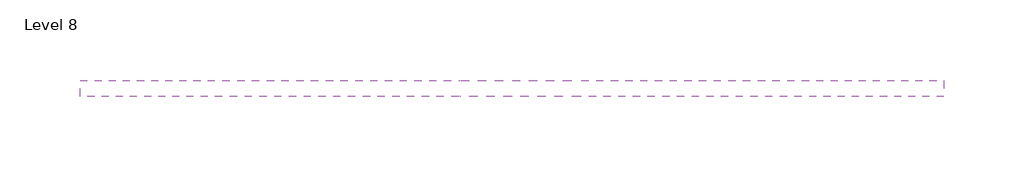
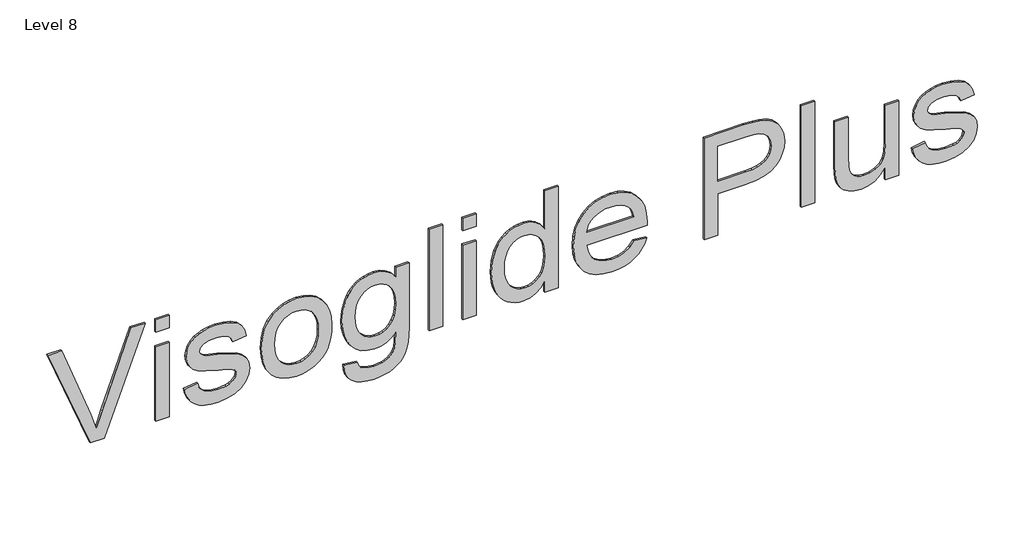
# One storey: 1 proxy.
"""IFC4 building model written with IfcOpenShell, lengths in millimetres."""

import ifcopenshell
import ifcopenshell.guid

model = None  # the IFC model being written
_history = None  # IfcOwnerHistory: only IFC2X3 demands one
_inside = {}  # id of a spatial element -> (the spatial element, [elements in it])
_under = {}  # id of a project, library or spatial element -> (it, [spatial elements below it])
_declared = {}  # id of a project -> (the project, [libraries it declares])
_typed = {}  # id of a type object -> (the type object, [elements of that type])
_made_of = {}  # id of a material, layer set ... -> (it, [elements and type objects made of it])


def new_model(schema):
    """Start an empty IFC model of exactly this schema.

    Asked for "IFC4X3", IfcOpenShell would pick the latest addendum, in which some entities
    have other attributes; the version numbers below select the first issue.
    IFC2X3 requires an IfcOwnerHistory on every rooted entity: one is made here for all.
    """
    global model, _history
    if schema == "IFC4X3":
        model = ifcopenshell.file(schema_version=(4, 3, 0, 0))
    else:
        model = ifcopenshell.file(schema=schema)
    _inside.clear()
    _under.clear()
    _declared.clear()
    _typed.clear()
    _made_of.clear()
    _history = None
    if model.schema == "IFC2X3":
        org = make("IfcOrganization", Name="unknown")
        user = make(
            "IfcPersonAndOrganization",
            ThePerson=make("IfcPerson", FamilyName="unknown"),
            TheOrganization=org,
        )
        app = make(
            "IfcApplication",
            ApplicationDeveloper=org,
            Version="unknown",
            ApplicationFullName="unknown",
            ApplicationIdentifier="unknown",
        )
        _history = make(
            "IfcOwnerHistory",
            OwningUser=user,
            OwningApplication=app,
            ChangeAction="ADDED",
            CreationDate=0,
        )
    return model


def make(cls, **values):
    """One entity of the class cls with the attributes given. An attribute that is None is left unset."""
    return model.create_entity(
        cls, **{name: value for name, value in values.items() if value is not None}
    )


def rooted(cls, **values):
    """An entity with a GlobalId (a new one), such as an element, a storey or a relation."""
    return make(cls, GlobalId=ifcopenshell.guid.new(), OwnerHistory=_history, **values)


def si_unit(unit_type, name, prefix=None):
    """IfcSIUnit, for example si_unit("LENGTHUNIT", "METRE", prefix="MILLI")."""
    return make("IfcSIUnit", UnitType=unit_type, Prefix=prefix, Name=name)


def assignment(units):
    """IfcUnitAssignment: the units of a project."""
    return None if units is None else make("IfcUnitAssignment", Units=units)


def point(xyz):
    """IfcCartesianPoint."""
    return None if xyz is None else make("IfcCartesianPoint", Coordinates=xyz)


def direction(xyz):
    """IfcDirection."""
    return None if xyz is None else make("IfcDirection", DirectionRatios=xyz)


def frame(location, z_axis=None, x_axis=None):
    """IfcAxis2Placement3D, a coordinate frame: its origin and axes. An axis left out is left unset."""
    return make(
        "IfcAxis2Placement3D",
        Location=point(location),
        Axis=direction(z_axis),
        RefDirection=direction(x_axis),
    )


def origin():
    """The frame at (0, 0, 0) with its axes left unset."""
    return frame((0.0, 0.0, 0.0))


def place(relative_to, where):
    """IfcLocalPlacement: puts the frame where relative to a parent placement (None: the world)."""
    return make(
        "IfcLocalPlacement", PlacementRelTo=relative_to, RelativePlacement=where
    )


def context(
    kind, dimensions, precision=None, world=None, true_north=None, identifier=None
):
    """IfcGeometricRepresentationContext, for example the 3D "Model" context."""
    return make(
        "IfcGeometricRepresentationContext",
        ContextIdentifier=identifier,
        ContextType=kind,
        CoordinateSpaceDimension=dimensions,
        Precision=precision,
        WorldCoordinateSystem=world,
        TrueNorth=true_north,
    )


def project(units=None, contexts=None):
    """IfcProject with its units and contexts."""
    return rooted(
        "IfcProject",
        Name="project",
        RepresentationContexts=contexts,
        UnitsInContext=assignment(units),
    )


def spatial(cls, under=None, at=None, **own):
    """A site, building, storey or space (cls), placed at a placement, below another one or the project."""
    s = rooted(cls, ObjectPlacement=at, **own)
    if under is not None:
        _under.setdefault(under.id(), (under, []))[1].append(s)
    return s


def polyline(points):
    """IfcPolyline through the points."""
    return make("IfcPolyline", Points=[point(p) for p in points])


def outline(outer, holes=None, kind="AREA"):
    """IfcArbitraryClosedProfileDef: a profile drawn as a closed curve; with holes, ...WithVoids."""
    if holes is None:
        return make("IfcArbitraryClosedProfileDef", ProfileType=kind, OuterCurve=outer)
    return make(
        "IfcArbitraryProfileDefWithVoids",
        ProfileType=kind,
        OuterCurve=outer,
        InnerCurves=holes,
    )


def extrude(swept, where, along, depth):
    """IfcExtrudedAreaSolid: the profile swept, set in the frame where, extruded along a direction by depth."""
    return make(
        "IfcExtrudedAreaSolid",
        SweptArea=swept,
        Position=where,
        ExtrudedDirection=direction(along),
        Depth=depth,
    )


def shape(context_of_items, identifier, shape_type, items):
    """IfcShapeRepresentation: the items that make up one representation, for example the "Body"."""
    return make(
        "IfcShapeRepresentation",
        ContextOfItems=context_of_items,
        RepresentationIdentifier=identifier,
        RepresentationType=shape_type,
        Items=items,
    )


def made_of(thing, what):
    """Note that an element or type object is made of a material, layer set ...; save() writes the relation."""
    if what is not None:
        _made_of.setdefault(what.id(), (what, []))[1].append(thing)
    return thing


def element(
    cls,
    number,
    at=None,
    inside=None,
    cuts=None,
    type_object=None,
    material=None,
    context=None,
    identifier="Body",
    shape_type=None,
    held_by="IfcProductDefinitionShape",
    body=None,
    shapes=None,
    **own,
):
    """One element of the class cls, such as IfcWall. Its Tag is "e" and its number.

    at: its placement. inside: the storey or other place that contains it. cuts: it is an
    opening in that element (IfcRelVoidsElement). A single representation is given by context,
    identifier, shape_type and body (its items); several are given by shapes. held_by: the class
    of the entity that holds the representations. save() writes the other relations.
    """
    e = rooted(cls, Tag="e%d" % number, ObjectPlacement=at, **own)
    if body is not None:
        shapes = [shape(context, identifier, shape_type, body)]
    if shapes is not None:
        e.Representation = make(held_by, Representations=shapes)
    if inside is not None:
        _inside.setdefault(inside.id(), (inside, []))[1].append(e)
    if cuts is not None:
        rooted(
            "IfcRelVoidsElement", RelatingBuildingElement=cuts, RelatedOpeningElement=e
        )
    if type_object is not None:
        _typed.setdefault(type_object.id(), (type_object, []))[1].append(e)
    return made_of(e, material)


def aggregate(whole, parts):
    """IfcRelAggregates: a whole, such as a stair, and the parts it consists of."""
    return rooted("IfcRelAggregates", RelatingObject=whole, RelatedObjects=parts)


def save(model, path):
    """Write the relations noted so far, then the file.

    IfcRelAggregates (storeys below a building ...), IfcRelContainedInSpatialStructure (elements
    in a storey), IfcRelDefinesByType, IfcRelAssociatesMaterial and IfcRelDeclares: one each for
    every whole, place, type object, material and project.
    """
    for whole, parts in _under.values():
        aggregate(whole, parts)
    for where, things in _inside.values():
        rooted(
            "IfcRelContainedInSpatialStructure",
            RelatedElements=things,
            RelatingStructure=where,
        )
    for kind, things in _typed.values():
        rooted("IfcRelDefinesByType", RelatedObjects=things, RelatingType=kind)
    for what, things in _made_of.values():
        rooted("IfcRelAssociatesMaterial", RelatedObjects=things, RelatingMaterial=what)
    for by, libraries in _declared.values():
        rooted("IfcRelDeclares", RelatingContext=by, RelatedDefinitions=libraries)
    model.write(path)


model = new_model("IFC4")

# Units and contexts
model_context = context("Model", 3, world=origin())
ifc_project = project(units=[si_unit("LENGTHUNIT", "METRE", prefix="MILLI")], contexts=[model_context])

# Site, building, storey
site = spatial("IfcSite", under=ifc_project)
building = spatial("IfcBuilding", under=site)
storey = spatial("IfcBuildingStorey", under=building, Name="Level 8", Elevation=21000.0)

# Proxy
placement = place(None, origin())
element("IfcBuildingElementProxy", 1, Name="600mm Arial", ObjectType="600mm Arial", at=placement, inside=storey, context=model_context, shape_type="SweptSolid", body=[
    extrude(outline(polyline([(23220.9429249, -255422.1435626), (23220.9429249, -255345.8454856), (23811.7121557, -255120.7012549), (23811.7121557, -255199.7397164), (23386.0871557, -255357.5281779), (23290.1736941, -255388.9704856), (23386.0871557, -255420.8454856), (23811.7121557, -255578.2012549), (23811.7121557, -255657.2397164), (23220.9429249, -255422.1435626)])), frame((0.0, 24202.6264647, 0.0), z_axis=(0.0, 1.0, 0.0), x_axis=(0.0, 0.0, 1.0)), (0.0, 0.0, 1.0), 10.0),
    extrude(outline(polyline([(-254987.4320241, 24202.6264647), (-255061.2781779, 24202.6264647), (-255061.2781779, 24212.6264647), (-254987.4320241, 24212.6264647), (-254987.4320241, 24202.6264647)])), frame((0.0, 0.0, 23737.8660018), z_axis=(0.0, 0.0, 1.0), x_axis=(1.0, 0.0, 0.0)), (0.0, 0.0, 1.0), 73.8461538),
    extrude(outline(polyline([(-254987.4320241, 24202.6264647), (-255061.2781779, 24202.6264647), (-255061.2781779, 24212.6264647), (-254987.4320241, 24212.6264647), (-254987.4320241, 24202.6264647)])), frame((0.0, 0.0, 23220.9429249), z_axis=(0.0, 0.0, 1.0), x_axis=(1.0, 0.0, 0.0)), (0.0, 0.0, 1.0), 433.8461538),
    extrude(outline(polyline([(23350.1736941, -254904.355101), (23317.9561461, -254896.2240914), (23289.957348, -254884.0906779), (23266.1772999, -254867.9548606), (23246.6160018, -254847.8166395), (23231.3455691, -254823.1621924), (23220.4381172, -254793.4776972), (23213.8936461, -254758.7631539), (23211.7121557, -254719.0185626), (23216.2373961, -254670.6291395), (23229.8131172, -254627.5762549), (23251.6821076, -254591.933226), (23281.0871557, -254565.7733703), (23315.3419634, -254549.7096683), (23351.7602326, -254544.355101), (23386.988598, -254548.9163991), (23415.9429249, -254562.6002933), (23438.6953288, -254584.3070241), (23455.3179249, -254612.9368318), (23490.0775403, -254721.3262549), (23505.7986941, -254784.9320241), (23513.0462903, -254801.1940433), (23522.0967711, -254812.480101), (23532.2289826, -254819.0786587), (23543.5871557, -254821.2781779), (23561.0390788, -254815.9776972), (23576.1833095, -254800.0762549), (23586.676098, -254771.8070241), (23590.1736941, -254729.4031779), (23586.5138384, -254692.1736106), (23575.5342711, -254664.4272164), (23558.0282614, -254645.9837068), (23534.7890788, -254636.6627933), (23544.019848, -254562.8166395), (23581.3575884, -254572.6243318), (23610.2938864, -254588.2012549), (23632.4693672, -254611.7108703), (23649.5246557, -254645.3166395), (23660.3960499, -254687.1075049), (23664.019848, -254735.1724087), (23661.7662422, -254768.0029376), (23655.0054249, -254798.7060626), (23645.035473, -254825.2625529), (23633.1544634, -254845.6531779), (23614.2782614, -254866.1700049), (23591.1111941, -254881.855101), (23564.6989345, -254891.8070241), (23536.0871557, -254895.1243318), (23504.8972518, -254890.995726), (23476.519848, -254878.6099087), (23452.4873961, -254858.2192837), (23434.332348, -254830.0762549), (23417.691723, -254786.2661587), (23398.2025403, -254718.8743318), (23386.519848, -254670.5209664), (23377.144848, -254642.8647164), (23362.7938864, -254624.3671203), (23353.941723, -254619.7427212), (23343.9717711, -254618.2012549), (23321.9765788, -254624.3310626), (23303.0102326, -254642.7204856), (23295.3750163, -254656.620726), (23289.9212903, -254673.8022164), (23285.5583095, -254718.0089472), (23290.3179249, -254762.7565433), (23296.2674441, -254780.9386347), (23304.5967711, -254796.3262549), (23315.1616749, -254808.9554616), (23327.8179249, -254818.8623126), (23342.5655211, -254826.0468078), (23359.4044634, -254830.5089472), (23350.1736941, -254904.355101)])), frame((0.0, 24202.6264647, 0.0), z_axis=(0.0, 1.0, 0.0), x_axis=(0.0, 0.0, 1.0)), (0.0, 0.0, 1.0), 10.0),
    extrude(outline(polyline([(23437.8660018, -254479.7397164), (23386.2674441, -254476.3908582), (23341.0871557, -254466.3442837), (23302.3251364, -254449.5999929), (23269.9813864, -254426.1579856), (23244.488598, -254397.2892957), (23226.2794634, -254364.2649568), (23215.3539826, -254327.0849688), (23211.7121557, -254285.7493318), (23213.3663023, -254259.1612909), (23218.3287422, -254233.6279376), (23226.5994754, -254209.1492717), (23238.1785018, -254185.7252933), (23252.7503167, -254164.1943438), (23269.9994153, -254145.3947645), (23289.9257975, -254129.3265554), (23312.5294634, -254115.9897164), (23338.6983336, -254105.5149568), (23369.3203288, -254098.0329856), (23404.3954489, -254093.5438029), (23443.9236941, -254092.0474087), (23492.6962302, -254095.4323246), (23535.8888384, -254105.5870722), (23573.5015187, -254122.5116515), (23605.5342711, -254146.2060626), (23631.121711, -254175.2370121), (23649.3984538, -254208.1712068), (23660.3644994, -254245.0086467), (23664.019848, -254285.7493318), (23661.0180451, -254322.6543799), (23652.0126364, -254356.6387549), (23637.003622, -254387.7024568), (23615.9910018, -254415.8454856), (23583.1154009, -254443.7992116), (23542.4693672, -254463.7661587), (23494.0529009, -254475.746327), (23437.8660018, -254479.7397164)]), holes=[polyline([(23438.0102326, -254405.8935626), (23473.8200283, -254403.7571443), (23504.8071076, -254397.3478895), (23530.9714706, -254386.6657981), (23552.3131172, -254371.7108703), (23568.8771196, -254353.5197645), (23580.7085499, -254333.1291395), (23587.8074081, -254310.5389953), (23590.1736941, -254285.7493318), (23587.7983937, -254261.2616515), (23580.6724922, -254238.8563029), (23568.7959898, -254218.5332861), (23552.1688864, -254200.292601), (23530.9263985, -254185.2430217), (23505.2037422, -254174.4933222), (23475.0009177, -254168.0435025), (23440.3179249, -254165.8935626), (23403.6652807, -254168.0299808), (23372.0246557, -254174.4392356), (23345.3960499, -254185.121327), (23323.7794634, -254200.0762549), (23307.0577086, -254218.2493318), (23295.113598, -254238.5858703), (23287.9471316, -254261.0858703), (23285.5583095, -254285.7493318), (23287.93361, -254310.5389953), (23295.0595114, -254333.1291395), (23306.9360139, -254353.5197645), (23323.5631172, -254371.7108703), (23344.9678648, -254386.6657981), (23371.1772999, -254397.3478895), (23402.1914225, -254403.7571443), (23438.0102326, -254405.8935626)])]), frame((0.0, 24202.6264647, 0.0), z_axis=(0.0, 1.0, 0.0), x_axis=(0.0, 0.0, 1.0)), (0.0, 0.0, 1.0), 10.0),
    extrude(outline(polyline([(23184.019848, -254027.4320241), (23151.5093312, -254025.2009544), (23123.3527807, -254016.9212068), (23099.5501965, -254002.5927813), (23080.1015788, -253982.2156779), (23064.9888985, -253956.988815), (23054.1941268, -253928.1111106), (23047.7172639, -253895.582565), (23045.5583095, -253859.4031779), (23047.0907614, -253828.6504736), (23051.6881172, -253800.4308222), (23059.3503768, -253774.7442236), (23070.0775403, -253751.5906779), (23083.4414225, -253731.1775169), (23099.0138384, -253713.7120722), (23116.7947879, -253699.1943438), (23136.7842711, -253687.6243318), (23161.5694273, -253678.7901972), (23193.7373961, -253672.480101), (23280.2217711, -253667.4320241), (23654.7890788, -253667.4320241), (23654.7890788, -253741.2781779), (23599.4044634, -253741.2781779), (23627.6736941, -253766.2391154), (23647.8660018, -253794.3911587), (23659.9813864, -253825.7343078), (23664.019848, -253860.2685626), (23662.2349922, -253886.4329255), (23656.8804249, -253910.839476), (23647.9561461, -253933.488214), (23635.4621557, -253954.3791395), (23619.6914225, -253973.2102693), (23600.9369153, -253989.6796203), (23579.198634, -254003.7871924), (23554.4765788, -254015.5329856), (23499.6508576, -254031.3803414), (23440.0294634, -254036.6627933), (23396.5619153, -254033.7195842), (23356.3035018, -254024.8899568), (23319.254223, -254010.1739111), (23285.4140788, -253989.5714472), (23257.2079489, -253963.6054015), (23237.0607134, -253932.7986106), (23224.972372, -253897.1510746), (23220.9429249, -253856.6627933), (23224.4044634, -253823.5438029), (23234.7890788, -253793.2733703), (23252.0967711, -253765.8514953), (23276.3275403, -253741.2781779), (23221.988598, -253742.323851), (23190.2217711, -253746.3262549), (23160.3660018, -253760.0281779), (23138.0102326, -253782.3839472), (23129.8702086, -253797.1135145), (23124.0559057, -253814.6195241), (23119.4044634, -253857.9608703), (23123.5150403, -253898.5978895), (23135.8467711, -253929.6435626), (23151.7121557, -253945.4368318), (23174.7890788, -253953.5858703), (23184.019848, -254027.4320241)]), holes=[polyline([(23445.0775403, -253962.8166395), (23478.8500764, -253960.8199448), (23508.1965307, -253954.8298606), (23533.1169033, -253944.8463871), (23553.6111941, -253930.8695241), (23569.6072879, -253914.0441034), (23581.0330691, -253895.5149568), (23587.8885379, -253875.2820842), (23590.1736941, -253853.3454856), (23587.8524802, -253831.0347885), (23580.8888384, -253810.4007741), (23569.2827687, -253791.4434424), (23553.0342711, -253774.1627933), (23532.2244754, -253759.7757741), (23506.9345114, -253749.4993318), (23477.1643792, -253743.3334664), (23442.9140788, -253741.2781779), (23407.1718913, -253743.2748727), (23376.5318672, -253749.2649568), (23350.9940066, -253759.2484304), (23330.5583095, -253773.2252933), (23314.9092711, -253790.1408582), (23303.7313864, -253808.9404376), (23297.0246557, -253829.6240313), (23294.7890788, -253852.1916395), (23297.0381773, -253874.9846082), (23303.785473, -253895.7673606), (23315.0309658, -253914.5398967), (23330.7746557, -253931.3022164), (23351.4131773, -253945.0897765), (23377.3431653, -253954.9380337), (23408.5646196, -253960.846988), (23445.0775403, -253962.8166395)])]), frame((0.0, 24202.6264647, 0.0), z_axis=(0.0, 1.0, 0.0), x_axis=(0.0, 0.0, 1.0)), (0.0, 0.0, 1.0), 10.0),
    extrude(outline(polyline([(-253482.8166395, 24202.6264647), (-253556.6627933, 24202.6264647), (-253556.6627933, 24212.6264647), (-253482.8166395, 24212.6264647), (-253482.8166395, 24202.6264647)])), frame((0.0, 0.0, 23220.9429249), z_axis=(0.0, 0.0, 1.0), x_axis=(1.0, 0.0, 0.0)), (0.0, 0.0, 1.0), 590.7692308),
    extrude(outline(polyline([(-253298.2012549, 24202.6264647), (-253372.0474087, 24202.6264647), (-253372.0474087, 24212.6264647), (-253298.2012549, 24212.6264647), (-253298.2012549, 24202.6264647)])), frame((0.0, 0.0, 23220.9429249), z_axis=(0.0, 0.0, 1.0), x_axis=(1.0, 0.0, 0.0)), (0.0, 0.0, 1.0), 433.8461538),
    extrude(outline(polyline([(-253298.2012549, 24202.6264647), (-253372.0474087, 24202.6264647), (-253372.0474087, 24212.6264647), (-253298.2012549, 24212.6264647), (-253298.2012549, 24202.6264647)])), frame((0.0, 0.0, 23737.8660018), z_axis=(0.0, 0.0, 1.0), x_axis=(1.0, 0.0, 0.0)), (0.0, 0.0, 1.0), 73.8461538),
    extrude(outline(polyline([(23220.9429249, -252919.7397164), (23220.9429249, -252845.8935626), (23811.7121557, -252845.8935626), (23811.7121557, -252919.7397164), (23591.6160018, -252919.7397164), (23620.7686461, -252941.2661587), (23643.8996557, -252968.3454856), (23658.9897999, -253000.292601), (23664.019848, -253036.4224087), (23662.2620355, -253061.8385746), (23656.988598, -253086.0197645), (23648.1995355, -253108.9659784), (23635.894848, -253130.6772164), (23620.2908816, -253150.4548606), (23601.6039826, -253167.6002933), (23579.8341509, -253182.1135145), (23554.9813864, -253193.9945241), (23499.2001364, -253209.8418799), (23437.4333095, -253215.1243318), (23374.8912422, -253209.3911587), (23346.4732735, -253202.2246924), (23319.957348, -253192.1916395), (23295.8032014, -253179.5534183), (23274.4705691, -253164.5714472), (23255.9594514, -253147.245726), (23240.269848, -253127.5762549), (23227.7758576, -253106.230101), (23218.8515788, -253083.8743318), (23213.4970114, -253060.5089472), (23211.7121557, -253036.1339472), (23216.6430451, -253000.0311828), (23231.4357134, -252968.5978895), (23256.0901605, -252941.8340674), (23290.6063864, -252919.7397164), (23220.9429249, -252919.7397164)]), holes=[polyline([(23437.7217711, -253141.2781779), (23474.5952687, -253139.3310626), (23506.1772999, -253133.4897164), (23532.4678648, -253123.7541395), (23553.4669634, -253110.1243318), (23569.5261581, -253093.5828654), (23580.9970114, -253075.1123126), (23587.8795235, -253054.7126731), (23590.1736941, -253032.3839472), (23587.784872, -253009.5278775), (23580.6184057, -252988.5558222), (23568.6742951, -252969.4677813), (23551.9525403, -252952.2637549), (23530.128622, -252938.034488), (23502.8780211, -252927.870726), (23470.2007374, -252921.7724688), (23432.0967711, -252919.7397164), (23397.3416629, -252921.7364111), (23367.3551845, -252927.7264953), (23342.137336, -252937.7099688), (23321.6881172, -252951.6868318), (23305.8813264, -252968.5212669), (23294.5907614, -252987.0774568), (23287.8164225, -253007.3554015), (23285.5583095, -253029.355101), (23287.9245956, -253051.2511347), (23295.0234538, -253071.6507741), (23306.854884, -253090.5540193), (23323.4188864, -253107.9608703), (23344.7605331, -253122.5371924), (23370.9248961, -253132.948851), (23401.9119754, -253139.1958462), (23437.7217711, -253141.2781779)])]), frame((0.0, 24202.6264647, 0.0), z_axis=(0.0, 1.0, 0.0), x_axis=(0.0, 0.0, 1.0)), (0.0, 0.0, 1.0), 10.0),
    extrude(outline(polyline([(23350.1736941, -252431.3743318), (23321.0030211, -252452.0714472), (23300.9910018, -252478.9704856), (23289.4164826, -252512.0714472), (23285.5583095, -252551.3743318), (23287.6406413, -252578.6835265), (23293.8876364, -252603.6399568), (23304.2992951, -252626.2436227), (23318.8756172, -252646.4945241), (23337.3641989, -252663.4551611), (23359.5126364, -252676.1880337), (23385.3209297, -252684.6931419), (23414.7890788, -252688.9704856), (23414.7890788, -252357.0954856), (23434.6929249, -252356.6627933), (23486.1562663, -252360.1648967), (23531.5078288, -252370.6712068), (23570.7476124, -252388.1817236), (23603.8756172, -252412.6964472), (23630.1887182, -252442.7279977), (23648.9837903, -252476.7889953), (23660.2608336, -252514.87944), (23664.019848, -252556.9993318), (23660.2518191, -252600.5209664), (23648.9477326, -252639.7877933), (23630.1075884, -252674.7998126), (23603.7313864, -252705.5570241), (23570.5312663, -252730.6081058), (23531.2193672, -252748.5017356), (23485.7956893, -252759.2379135), (23434.2602326, -252762.8166395), (23384.4149802, -252759.2739712), (23340.4561461, -252748.6459664), (23302.3837302, -252730.9326251), (23270.1977326, -252706.1339472), (23244.6102927, -252675.2956058), (23226.3335499, -252639.4632741), (23215.3675042, -252598.636952), (23211.7121557, -252552.8166395), (23213.8305451, -252516.159488), (23220.1857134, -252482.9188029), (23230.7776605, -252453.0945842), (23245.6063864, -252426.6868318), (23264.2752566, -252403.9299207), (23286.3876364, -252385.058226), (23311.9435259, -252370.0717477), (23340.9429249, -252358.9704856), (23350.1736941, -252431.3743318)]), holes=[polyline([(23488.6352326, -252688.9704856), (23510.6169033, -252684.9635746), (23530.2638384, -252676.8370722), (23547.5760379, -252664.5909784), (23562.5535018, -252648.2252933), (23574.637336, -252628.722589), (23583.2686461, -252607.0654376), (23588.4474321, -252583.253839), (23590.1736941, -252557.2877933), (23588.0102326, -252528.8202453), (23581.519848, -252503.1291395), (23570.7025403, -252480.214476), (23555.5583095, -252460.0762549), (23542.9922038, -252449.0876731), (23527.6496557, -252440.4969279), (23488.6352326, -252430.5089472), (23488.6352326, -252688.9704856)])]), frame((0.0, 24202.6264647, 0.0), z_axis=(0.0, 1.0, 0.0), x_axis=(0.0, 0.0, 1.0)), (0.0, 0.0, 1.0), 10.0),
    extrude(outline(polyline([(23220.9429249, -252042.8166395), (23220.9429249, -251968.9704856), (23460.9429249, -251968.9704856), (23460.9429249, -251818.8262549), (23464.2061461, -251761.5891755), (23473.9958095, -251713.9163991), (23490.3119153, -251675.8079255), (23513.1544634, -251647.2637549), (23540.7115547, -251626.471988), (23571.1712903, -251611.620726), (23604.5336701, -251602.7099688), (23640.7986941, -251599.7397164), (23682.8599922, -251604.1387549), (23721.3515788, -251617.3358703), (23753.9837903, -251637.7625529), (23778.4669634, -251663.8502933), (23795.5763384, -251696.2481299), (23806.0871557, -251735.605101), (23810.3059057, -251772.8887549), (23811.7121557, -251823.8743318), (23811.7121557, -252042.8166395), (23220.9429249, -252042.8166395)]), holes=[polyline([(23534.7890788, -251968.9704856), (23737.8660018, -251968.9704856), (23737.8660018, -251816.230101), (23736.6039826, -251770.8695241), (23732.8179249, -251742.3839472), (23720.4140788, -251714.4933222), (23699.3563864, -251692.5522164), (23671.3756172, -251678.3274568), (23638.2025403, -251673.5858703), (23614.9904009, -251675.5960866), (23594.5366749, -251681.6267356), (23576.8413624, -251691.6778174), (23561.9044634, -251705.7493318), (23550.0414826, -251724.6075049), (23541.5679249, -251749.0185626), (23536.4837903, -251778.9825049), (23534.7890788, -251814.4993318), (23534.7890788, -251968.9704856)])]), frame((0.0, 24202.6264647, 0.0), z_axis=(0.0, 1.0, 0.0), x_axis=(0.0, 0.0, 1.0)), (0.0, 0.0, 1.0), 10.0),
    extrude(outline(polyline([(-251433.5858703, 24202.6264647), (-251507.4320241, 24202.6264647), (-251507.4320241, 24212.6264647), (-251433.5858703, 24212.6264647), (-251433.5858703, 24202.6264647)])), frame((0.0, 0.0, 23220.9429249), z_axis=(0.0, 0.0, 1.0), x_axis=(1.0, 0.0, 0.0)), (0.0, 0.0, 1.0), 590.7692308),
    extrude(outline(polyline([(23220.9429249, -251045.8935626), (23220.9429249, -250972.0474087), (23654.7890788, -250972.0474087), (23654.7890788, -251045.8935626), (23429.0679249, -251045.8935626), (23381.5258576, -251048.886351), (23346.7842711, -251057.8647164), (23321.4176845, -251074.0365914), (23302.0006172, -251098.6099087), (23289.6688864, -251128.4115914), (23285.5583095, -251160.2685626), (23289.5787422, -251190.3947645), (23301.6400403, -251215.292601), (23320.7325884, -251233.7361106), (23345.8467711, -251244.4993318), (23374.4044634, -251247.8526972), (23421.1352326, -251248.9704856), (23654.7890788, -251248.9704856), (23654.7890788, -251322.8166395), (23386.3756172, -251322.8166395), (23317.7217711, -251318.4897164), (23288.0462903, -251309.8178414), (23263.3467711, -251296.4945241), (23243.0102326, -251276.698851), (23226.4236941, -251248.6099087), (23215.3900403, -251215.1303414), (23211.7121557, -251179.1627933), (23216.9495355, -251139.2469279), (23232.6616749, -251103.730101), (23258.8485739, -251072.6123126), (23295.5102326, -251045.8935626), (23220.9429249, -251045.8935626)])), frame((0.0, 24202.6264647, 0.0), z_axis=(0.0, 1.0, 0.0), x_axis=(0.0, 0.0, 1.0)), (0.0, 0.0, 1.0), 10.0),
    extrude(outline(polyline([(23350.1736941, -250898.2012549), (23317.9561461, -250890.0702453), (23289.957348, -250877.9368318), (23266.1772999, -250861.8010145), (23246.6160018, -250841.6627933), (23231.3455691, -250817.0083462), (23220.4381172, -250787.323851), (23213.8936461, -250752.6093078), (23211.7121557, -250712.8647164), (23216.2373961, -250664.4752933), (23229.8131172, -250621.4224087), (23251.6821076, -250585.7793799), (23281.0871557, -250559.6195241), (23315.3419634, -250543.5558222), (23351.7602326, -250538.2012549), (23386.988598, -250542.7625529), (23415.9429249, -250556.4464472), (23438.6953288, -250578.1531779), (23455.3179249, -250606.7829856), (23490.0775403, -250715.1724087), (23505.7986941, -250778.7781779), (23513.0462903, -250795.0401972), (23522.0967711, -250806.3262549), (23532.2289826, -250812.9248126), (23543.5871557, -250815.1243318), (23561.0390788, -250809.823851), (23576.1833095, -250793.9224087), (23586.676098, -250765.6531779), (23590.1736941, -250723.2493318), (23586.5138384, -250686.0197645), (23575.5342711, -250658.2733703), (23558.0282614, -250639.8298606), (23534.7890788, -250630.5089472), (23544.019848, -250556.6627933), (23581.3575884, -250566.4704856), (23610.2938864, -250582.0474087), (23632.4693672, -250605.5570241), (23649.5246557, -250639.1627933), (23660.3960499, -250680.9536587), (23664.019848, -250729.0185626), (23661.7662422, -250761.8490914), (23655.0054249, -250792.5522164), (23645.035473, -250819.1087068), (23633.1544634, -250839.4993318), (23614.2782614, -250860.0161587), (23591.1111941, -250875.7012549), (23564.6989345, -250885.6531779), (23536.0871557, -250888.9704856), (23504.8972518, -250884.8418799), (23476.519848, -250872.4560626), (23452.4873961, -250852.0654376), (23434.332348, -250823.9224087), (23417.691723, -250780.1123126), (23398.2025403, -250712.7204856), (23386.519848, -250664.3671203), (23377.144848, -250636.7108703), (23362.7938864, -250618.2132741), (23353.941723, -250613.5888751), (23343.9717711, -250612.0474087), (23321.9765788, -250618.1772164), (23303.0102326, -250636.5666395), (23295.3750163, -250650.4668799), (23289.9212903, -250667.6483703), (23285.5583095, -250711.855101), (23290.3179249, -250756.6026972), (23296.2674441, -250774.7847885), (23304.5967711, -250790.1724087), (23315.1616749, -250802.8016154), (23327.8179249, -250812.7084664), (23342.5655211, -250819.8929616), (23359.4044634, -250824.355101), (23350.1736941, -250898.2012549)])), frame((0.0, 24202.6264647, 0.0), z_axis=(0.0, 1.0, 0.0), x_axis=(0.0, 0.0, 1.0)), (0.0, 0.0, 1.0), 10.0),
])

save(model, "model.ifc")
